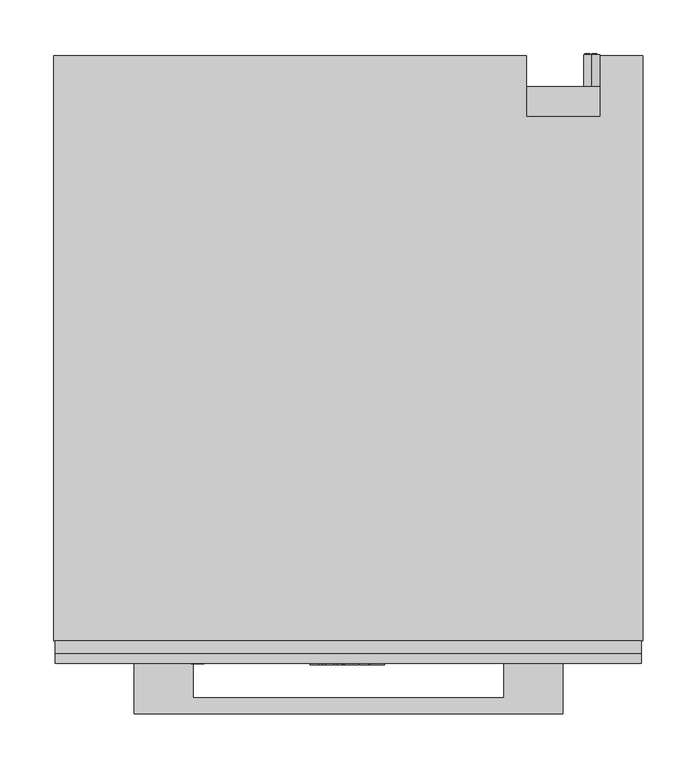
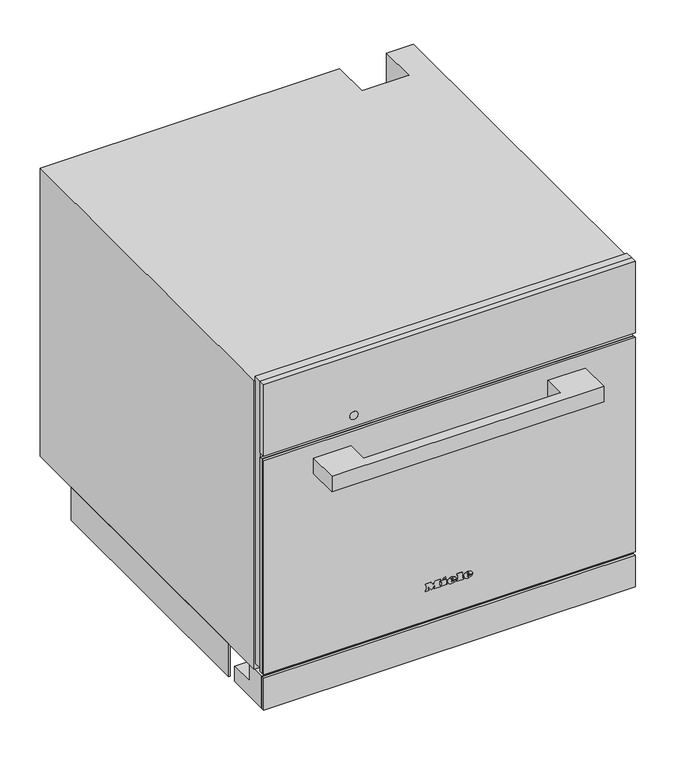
"""IFC4 building model written with IfcOpenShell, lengths in millimetres: proxy geometry, 12082210_CH_DGC7640-55_GRGR : 23764031_CH_12082210_DGC7640-55_GRGR."""

from ifc_helpers import new_model, si_unit, point, frame, frame_2d, origin, origin_with_axes, place, context, project, spatial, polyline, circle_curve, ellipse_curve, trimmed, segment, composite_curve, outline, extrude, faceted_brep, source, transform, mapped, element, save
from ifc_brep_helpers import plane_surface, cylinder_surface, revolved_surface, extruded_surface, advanced_brep


def specialty_equipment_7937b18a(model_context):
    return source(origin(), model_context, "Body", "SolidModel", [
        extrude(outline(polyline([(-200.0, -68.0), (-200.0, -21.0), (-145.0, -21.0), (-145.0, -53.0), (145.0, -53.0), (145.0, -21.0), (200.0, -21.0), (200.0, -68.0), (-200.0, -68.0)])), frame((0.0, 0.0, 342.0), z_axis=(0.0, 0.0, 1.0), x_axis=(1.0, 0.0, 0.0)), (0.0, 0.0, 1.0), 24.0),
        extrude(outline(polyline([(273.5, -17.0), (-273.5, -17.0), (-273.5, -12.0), (273.5, -12.0), (273.5, -17.0)])), frame((0.0, 0.0, 55.0), z_axis=(0.0, 0.0, 1.0), x_axis=(1.0, 0.0, 0.0)), (0.0, 0.0, 1.0), 333.0),
        extrude(outline(polyline([(-273.5, -17.0), (273.5, -17.0), (273.5, -21.0), (-273.5, -21.0), (-273.5, -17.0)])), frame((0.0, 0.0, 55.0), z_axis=(0.0, 0.0, 1.0), x_axis=(1.0, 0.0, 0.0)), (0.0, 0.0, 1.0), 333.0),
        extrude(outline(polyline([(273.5, -21.0), (-273.5, -21.0), (-273.5, -12.0), (273.5, -12.0), (273.5, -21.0)])), frame((0.0, 0.0, 395.0), z_axis=(0.0, 0.0, 1.0), x_axis=(1.0, 0.0, 0.0)), (0.0, 0.0, 1.0), 111.0),
        extrude(outline(composite_curve([segment(trimmed(circle_curve(frame_2d((412.0, -140.5745637)), 6.0), [point((412.0, -146.5745637))], [point((412.0, -134.5745637))], False, "CARTESIAN"), True, "CONTINUOUS"), segment(trimmed(circle_curve(frame_2d((412.0, -140.5745637)), 6.0), [point((412.0, -134.5745637))], [point((412.0, -146.5745637))], False, "CARTESIAN"), True, "CONTINUOUS")], self_intersect=False)), frame((0.0, -21.5, 0.0), z_axis=(0.0, 1.0, 0.0), x_axis=(0.0, 0.0, 1.0)), (0.0, 0.0, 1.0), 1.0),
        extrude(outline(polyline([(49.5, 273.0), (0.5, 273.0), (0.5, 275.0), (51.5, 275.0), (51.5, 203.0), (49.5, 203.0), (49.5, 273.0)])), frame((0.0, 65.0, 0.0), z_axis=(0.0, 1.0, 0.0), x_axis=(0.0, 0.0, 1.0)), (0.0, 0.0, 1.0), 401.0),
        extrude(outline(polyline([(51.5, -275.0), (0.5, -275.0), (0.5, -273.0), (49.5, -273.0), (49.5, -203.0), (51.5, -203.0), (51.5, -275.0)])), frame((0.0, 65.0, 0.0), z_axis=(0.0, 1.0, 0.0), x_axis=(0.0, 0.0, 1.0)), (0.0, 0.0, 1.0), 401.0),
        extrude(outline(polyline([(-16.0, 0.0), (-16.0, 49.5), (15.0, 49.5), (15.0, 23.5), (53.0, 23.5), (53.0, 0.0), (-16.0, 0.0)])), frame((-273.5, 0.0, 0.0), z_axis=(1.0, 0.0, 0.0), x_axis=(0.0, 1.0, 0.0)), (0.0, 0.0, 1.0), 547.0),
        extrude(outline(polyline([(-273.5, -17.0), (273.5, -17.0), (273.5, -21.0), (-273.5, -21.0), (-273.5, -17.0)])), origin_with_axes(), (0.0, 0.0, 1.0), 49.5),
        extrude(outline(polyline([(506.0, 273.5), (506.0, -273.5), (60.0, -273.5), (60.0, 273.5), (506.0, 273.5)]), holes=[polyline([(395.0, -272.5), (395.0, 272.5), (78.0, 272.5), (78.0, -272.5), (395.0, -272.5)])]), frame((0.0, -12.0, 0.0), z_axis=(0.0, 1.0, 0.0), x_axis=(0.0, 0.0, 1.0)), (0.0, 0.0, 1.0), 12.0),
        extrude(outline(polyline([(304.0, 232.0), (304.0, 227.0), (303.0, 227.0), (303.0, 231.0), (299.5, 231.0), (299.5, 228.0), (298.5, 228.0), (298.5, 231.0), (295.0, 231.0), (295.0, 227.0), (294.0, 227.0), (294.0, 232.0), (304.0, 232.0)])), frame((0.0, 547.0, 0.0), z_axis=(0.0, 1.0, 0.0), x_axis=(0.0, 0.0, 1.0)), (0.0, 0.0, 1.0), 1.0),
        extrude(outline(polyline([(294.0, 225.5), (304.0, 225.5), (304.0, 224.5), (295.0, 224.5), (295.0, 220.5), (294.0, 220.5), (294.0, 225.5)])), frame((0.0, 547.0, 0.0), z_axis=(0.0, 1.0, 0.0), x_axis=(0.0, 0.0, 1.0)), (0.0, 0.0, 1.0), 1.0),
        extrude(outline(composite_curve([segment(trimmed(circle_curve(frame_2d((299.0, 227.0)), 7.5), [point((291.5, 227.0))], [point((306.5, 227.0))], False, "CARTESIAN"), True, "CONTINUOUS"), segment(trimmed(circle_curve(frame_2d((299.0, 227.0)), 7.5), [point((306.5, 227.0))], [point((291.5, 227.0))], False, "CARTESIAN"), True, "CONTINUOUS")], self_intersect=False)), frame((0.0, 517.0, 0.0), z_axis=(0.0, 1.0, 0.0), x_axis=(0.0, 0.0, 1.0)), (0.0, 0.0, 1.0), 30.0),
        faceted_brep([(-275.0, 546.0, 51.5), (-275.0, 546.0, 499.5), (166.0, 546.0, 499.5), (166.0, 546.0, 51.5), (235.0, 546.0, 499.5), (275.0, 546.0, 499.5), (275.0, 546.0, 389.5), (235.0, 546.0, 389.5), (275.0, 0.0, 499.5), (-275.0, 0.0, 499.5), (-275.0, 0.0, 51.5), (275.0, 0.0, 51.5), (-272.5, 0.0, 395.0), (272.5, 0.0, 395.0), (272.5, 0.0, 78.0), (-272.5, 0.0, 78.0), (235.0, 489.0, 499.5), (166.0, 489.0, 499.5), (166.0, 517.0, 51.5), (275.0, 517.0, 51.5), (275.0, 517.0, 389.5), (272.5, 18.0, 395.0), (-272.5, 18.0, 395.0), (-272.5, 18.0, 78.0), (272.5, 18.0, 78.0), (231.0, 18.0, 358.0), (231.0, 18.0, 116.0), (-231.0, 18.0, 116.0), (-231.0, 18.0, 358.0), (231.0, 411.0, 358.0), (-231.0, 411.0, 358.0), (-231.0, 411.0, 116.0), (231.0, 411.0, 116.0), (235.0, 489.0, 388.5), (166.0, 489.0, 388.5), (166.0, 517.0, 388.5), (235.0, 517.0, 388.5), (235.0, 517.0, 389.5)], [[[0, 1, 2, 3]], [[4, 5, 6, 7]], [[8, 9, 10, 11], [12, 13, 14, 15]], [[9, 8, 5, 4, 16, 17, 2, 1]], [[1, 0, 10, 9]], [[11, 10, 0, 3, 18, 19]], [[8, 11, 19, 20, 6, 5]], [[21, 22, 23, 24], [25, 26, 27, 28]], [[22, 21, 13, 12]], [[23, 22, 12, 15]], [[24, 23, 15, 14]], [[21, 24, 14, 13]], [[29, 30, 31, 32]], [[29, 32, 26, 25]], [[32, 31, 27, 26]], [[31, 30, 28, 27]], [[30, 29, 25, 28]], [[16, 33, 34, 17]], [[17, 34, 35, 18, 3, 2]], [[34, 33, 36, 35]], [[33, 16, 4, 7, 37, 36]], [[37, 20, 19, 18, 35, 36]], [[20, 37, 7, 6]]]),
        advanced_brep(
        [(26.2998, -22.0, 104.2018), (26.2998, -22.0, 105.3532), (33.9264, -22.0, 105.3532), (20.6568, -22.0, 105.3532), (23.7918, -22.0, 101.5), (33.7326, -22.0, 104.2018), (30.2898, -22.0, 104.2018), (27.5766, -22.0, 102.925), (26.2998, -22.0, 106.8124), (26.2998, -22.0, 108.055), (28.2492, -22.0, 108.055), (28.2492, -22.0, 106.8124), (26.2998, -21.0, 104.2018), (27.5766, -21.0, 102.925), (30.2898, -21.0, 104.2018), (33.7326, -21.0, 104.2018), (23.7918, -21.0, 101.5), (20.6568, -21.0, 105.3532), (33.9264, -21.0, 105.3532), (26.2998, -21.0, 105.3532), (26.2998, -21.0, 106.8124), (28.2492, -21.0, 106.8124), (28.2492, -21.0, 108.055), (26.2998, -21.0, 108.055)],
        [
            (0, 1),
            (1, 2),
            (2, 3, ellipse_curve(frame((27.2916, -22.0, 105.3532), z_axis=(0.0, -1.0, 0.0), x_axis=(-1.0, 0.0, 0.0)), 6.6348, 5.4834)),
            (3, 4, circle_curve(frame((25.0686622, -22.0, 105.7408), z_axis=(0.0, -1.0, 0.0), x_axis=(0.0, 0.0, -1.0)), 4.4288556)),
            (4, 5, circle_curve(frame((27.1587808, -22.0, 108.7504), z_axis=(0.0, -1.0, 0.0), x_axis=(0.0, 0.0, -1.0)), 7.9940516)),
            (5, 6),
            (6, 7, circle_curve(frame((28.1338588, -22.0, 105.262), z_axis=(0.0, 1.0, 0.0), x_axis=(0.0, 0.0, -1.0)), 2.4025208)),
            (7, 0, circle_curve(frame((27.5766, -22.0, 104.2018), z_axis=(0.0, 1.0, 0.0), x_axis=(0.0, 0.0, -1.0)), 1.2768)),
            (8, 9),
            (9, 10, circle_curve(frame((27.2745, -22.0, 108.055), z_axis=(0.0, 1.0, 0.0), x_axis=(0.0, 0.0, -1.0)), 0.9747)),
            (10, 11),
            (11, 8),
            (12, 13, circle_curve(frame((27.5766, -21.0, 104.2018), z_axis=(0.0, -1.0, 0.0), x_axis=(0.0, 0.0, -1.0)), 1.2768)),
            (13, 14, circle_curve(frame((28.1338588, -21.0, 105.262), z_axis=(0.0, -1.0, 0.0), x_axis=(0.0, 0.0, -1.0)), 2.4025208)),
            (14, 15),
            (15, 16, circle_curve(frame((27.1587808, -21.0, 108.7504), z_axis=(0.0, 1.0, 0.0), x_axis=(0.0, 0.0, -1.0)), 7.9940516)),
            (16, 17, circle_curve(frame((25.0686622, -21.0, 105.7408), z_axis=(0.0, 1.0, 0.0), x_axis=(0.0, 0.0, -1.0)), 4.4288556)),
            (17, 18, ellipse_curve(frame((27.2916, -21.0, 105.3532), z_axis=(0.0, 1.0, 0.0), x_axis=(-1.0, 0.0, 0.0)), 6.6348, 5.4834)),
            (18, 19),
            (19, 12),
            (20, 21),
            (21, 22),
            (22, 23, circle_curve(frame((27.2745, -21.0, 108.055), z_axis=(0.0, -1.0, 0.0), x_axis=(0.0, 0.0, -1.0)), 0.9747)),
            (23, 20),
            (0, 12),
            (19, 1),
            (18, 2),
            (5, 15),
            (14, 6),
            (17, 3),
            (13, 7),
            (16, 4),
            (8, 20),
            (23, 9),
            (22, 10),
            (21, 11),
        ],
        [
            plane_surface(frame((26.2998, -22.0, 105.3532), z_axis=(0.0, -1.0, 0.0), x_axis=(0.0, 0.0, 1.0))),
            plane_surface(frame((26.2998, -21.0, 105.3532), z_axis=(0.0, 1.0, 0.0), x_axis=(0.0, 0.0, -1.0))),
            plane_surface(frame((26.2998, -22.0, 104.2018), z_axis=(1.0, 0.0, 0.0), x_axis=(0.0, 1.0, 0.0))),
            plane_surface(frame((26.2998, -22.0, 105.3532), z_axis=(0.0, 0.0, -1.0), x_axis=(0.0, 1.0, 0.0))),
            plane_surface(frame((33.7326, -22.0, 104.2018), z_axis=(0.0, 0.0, 1.0), x_axis=(0.0, 1.0, 0.0))),
            extruded_surface(trimmed(ellipse_curve(frame((27.2916, -20.0, 105.3532), z_axis=(0.0, -1.0, 0.0), x_axis=(-1.0, 0.0, 0.0)), 6.6348, 5.4834), [point((33.9264, -20.0, 105.3532))], [point((20.6568, -20.0, 105.3532))], True, "CARTESIAN"), (0.0, -1.0, 0.0), 1.0),
            revolved_surface(polyline([(28.1338588, -21.0, 102.8594792), (28.1338588, -22.0, 102.8594792)]), (28.1338588, -21.0, 105.262), (0.0, 1.0, 0.0)),
            revolved_surface(polyline([(27.5766, -21.0, 102.92500000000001), (27.5766, -22.0, 102.92500000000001)]), (27.5766, -21.0, 104.2018), (0.0, 1.0, 0.0)),
            cylinder_surface(frame((25.0686622, -21.0, 105.7408), z_axis=(0.0, -1.0, 0.0), x_axis=(0.0, 0.0, -1.0)), 4.4288556),
            cylinder_surface(frame((27.1587808, -21.0, 108.7504), z_axis=(0.0, -1.0, 0.0), x_axis=(0.0, 0.0, -1.0)), 7.9940516),
            plane_surface(frame((26.2998, -22.0, 106.8124), z_axis=(1.0, 0.0, 0.0), x_axis=(0.0, 1.0, 0.0))),
            revolved_surface(polyline([(27.2745, -21.0, 107.08030000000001), (27.2745, -22.0, 107.08030000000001)]), (27.2745, -21.0, 108.055), (0.0, 1.0, 0.0)),
            plane_surface(frame((28.2492, -22.0, 108.055), z_axis=(-1.0, 0.0, 0.0), x_axis=(0.0, 1.0, 0.0))),
            plane_surface(frame((28.2492, -22.0, 106.8124), z_axis=(0.0, 0.0, 1.0), x_axis=(0.0, 1.0, 0.0))),
        ],
        [
            (0, [[1, 2, 3, 4, 5, 6, 7, 8], [9, 10, 11, 12]]),
            (1, [[13, 14, 15, 16, 17, 18, 19, 20], [21, 22, 23, 24]]),
            (2, [[-1, 25, -20, 26]]),
            (3, [[-2, -26, -19, 27]]),
            (4, [[-6, 28, -15, 29]]),
            (5, [[-3, -27, -18, 30]]),
            (6, [[-7, -29, -14, 31]]),
            (7, [[-8, -31, -13, -25]]),
            (8, [[-4, -30, -17, 32]]),
            (9, [[-5, -32, -16, -28]]),
            (10, [[-9, 33, -24, 34]]),
            (11, [[-10, -34, -23, 35]]),
            (12, [[-11, -35, -22, 36]]),
            (13, [[-12, -36, -21, -33]]),
        ],
    ),
        advanced_brep(
        [(2.508, -22.0, 104.2018), (2.508, -22.0, 105.3532), (10.1346, -22.0, 105.3532), (-3.135, -22.0, 105.3532), (0.0, -22.0, 101.5), (9.9408, -22.0, 104.2018), (6.498, -22.0, 104.2018), (3.7848, -22.0, 102.925), (2.508, -22.0, 106.8124), (2.508, -22.0, 108.055), (4.4574, -22.0, 108.055), (4.4574, -22.0, 106.8124), (2.508, -21.0, 104.2018), (3.7848, -21.0, 102.925), (6.498, -21.0, 104.2018), (9.9408, -21.0, 104.2018), (0.0, -21.0, 101.5), (-3.135, -21.0, 105.3532), (10.1346, -21.0, 105.3532), (2.508, -21.0, 105.3532), (2.508, -21.0, 106.8124), (4.4574, -21.0, 106.8124), (4.4574, -21.0, 108.055), (2.508, -21.0, 108.055)],
        [
            (0, 1),
            (1, 2),
            (2, 3, ellipse_curve(frame((3.4998, -22.0, 105.3532), z_axis=(0.0, -1.0, 0.0), x_axis=(-1.0, 0.0, 0.0)), 6.6348, 5.4834)),
            (3, 4, circle_curve(frame((1.2768622, -22.0, 105.7408), z_axis=(0.0, -1.0, 0.0), x_axis=(0.0, 0.0, -1.0)), 4.4288556)),
            (4, 5, circle_curve(frame((3.3669808, -22.0, 108.7504), z_axis=(0.0, -1.0, 0.0), x_axis=(0.0, 0.0, -1.0)), 7.9940516)),
            (5, 6),
            (6, 7, circle_curve(frame((4.3420588, -22.0, 105.262), z_axis=(0.0, 1.0, 0.0), x_axis=(0.0, 0.0, -1.0)), 2.4025208)),
            (7, 0, circle_curve(frame((3.7848, -22.0, 104.2018), z_axis=(0.0, 1.0, 0.0), x_axis=(0.0, 0.0, -1.0)), 1.2768)),
            (8, 9),
            (9, 10, circle_curve(frame((3.4827, -22.0, 108.055), z_axis=(0.0, 1.0, 0.0), x_axis=(0.0, 0.0, -1.0)), 0.9747)),
            (10, 11),
            (11, 8),
            (12, 13, circle_curve(frame((3.7848, -21.0, 104.2018), z_axis=(0.0, -1.0, 0.0), x_axis=(0.0, 0.0, -1.0)), 1.2768)),
            (13, 14, circle_curve(frame((4.3420588, -21.0, 105.262), z_axis=(0.0, -1.0, 0.0), x_axis=(0.0, 0.0, -1.0)), 2.4025208)),
            (14, 15),
            (15, 16, circle_curve(frame((3.3669808, -21.0, 108.7504), z_axis=(0.0, 1.0, 0.0), x_axis=(0.0, 0.0, -1.0)), 7.9940516)),
            (16, 17, circle_curve(frame((1.2768622, -21.0, 105.7408), z_axis=(0.0, 1.0, 0.0), x_axis=(0.0, 0.0, -1.0)), 4.4288556)),
            (17, 18, ellipse_curve(frame((3.4998, -21.0, 105.3532), z_axis=(0.0, 1.0, 0.0), x_axis=(-1.0, 0.0, 0.0)), 6.6348, 5.4834)),
            (18, 19),
            (19, 12),
            (20, 21),
            (21, 22),
            (22, 23, circle_curve(frame((3.4827, -21.0, 108.055), z_axis=(0.0, -1.0, 0.0), x_axis=(0.0, 0.0, -1.0)), 0.9747)),
            (23, 20),
            (0, 12),
            (19, 1),
            (18, 2),
            (5, 15),
            (14, 6),
            (17, 3),
            (13, 7),
            (16, 4),
            (8, 20),
            (23, 9),
            (22, 10),
            (21, 11),
        ],
        [
            plane_surface(frame((2.508, -22.0, 105.3532), z_axis=(0.0, -1.0, 0.0), x_axis=(0.0, 0.0, 1.0))),
            plane_surface(frame((2.508, -21.0, 105.3532), z_axis=(0.0, 1.0, 0.0), x_axis=(0.0, 0.0, -1.0))),
            plane_surface(frame((2.508, -22.0, 104.2018), z_axis=(1.0, 0.0, 0.0), x_axis=(0.0, 1.0, 0.0))),
            plane_surface(frame((2.508, -22.0, 105.3532), z_axis=(0.0, 0.0, -1.0), x_axis=(0.0, 1.0, 0.0))),
            plane_surface(frame((9.9408, -22.0, 104.2018), z_axis=(0.0, 0.0, 1.0), x_axis=(0.0, 1.0, 0.0))),
            extruded_surface(trimmed(ellipse_curve(frame((3.4998, -20.0, 105.3532), z_axis=(0.0, -1.0, 0.0), x_axis=(-1.0, 0.0, 0.0)), 6.6348, 5.4834), [point((10.1346, -20.0, 105.3532))], [point((-3.135, -20.0, 105.3532))], True, "CARTESIAN"), (0.0, -1.0, 0.0), 1.0),
            revolved_surface(polyline([(4.3420588, -21.0, 102.8594792), (4.3420588, -22.0, 102.8594792)]), (4.3420588, -21.0, 105.262), (0.0, 1.0, 0.0)),
            revolved_surface(polyline([(3.7848, -21.0, 102.92500000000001), (3.7848, -22.0, 102.92500000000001)]), (3.7848, -21.0, 104.2018), (0.0, 1.0, 0.0)),
            cylinder_surface(frame((1.2768622, -21.0, 105.7408), z_axis=(0.0, -1.0, 0.0), x_axis=(0.0, 0.0, -1.0)), 4.4288556),
            cylinder_surface(frame((3.3669808, -21.0, 108.7504), z_axis=(0.0, -1.0, 0.0), x_axis=(0.0, 0.0, -1.0)), 7.9940516),
            plane_surface(frame((2.508, -22.0, 106.8124), z_axis=(1.0, 0.0, 0.0), x_axis=(0.0, 1.0, 0.0))),
            revolved_surface(polyline([(3.4827, -21.0, 107.08030000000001), (3.4827, -22.0, 107.08030000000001)]), (3.4827, -21.0, 108.055), (0.0, 1.0, 0.0)),
            plane_surface(frame((4.4574, -22.0, 108.055), z_axis=(-1.0, 0.0, 0.0), x_axis=(0.0, 1.0, 0.0))),
            plane_surface(frame((4.4574, -22.0, 106.8124), z_axis=(0.0, 0.0, 1.0), x_axis=(0.0, 1.0, 0.0))),
        ],
        [
            (0, [[1, 2, 3, 4, 5, 6, 7, 8], [9, 10, 11, 12]]),
            (1, [[13, 14, 15, 16, 17, 18, 19, 20], [21, 22, 23, 24]]),
            (2, [[-1, 25, -20, 26]]),
            (3, [[-2, -26, -19, 27]]),
            (4, [[-6, 28, -15, 29]]),
            (5, [[-3, -27, -18, 30]]),
            (6, [[-7, -29, -14, 31]]),
            (7, [[-8, -31, -13, -25]]),
            (8, [[-4, -30, -17, 32]]),
            (9, [[-5, -32, -16, -28]]),
            (10, [[-9, 33, -24, 34]]),
            (11, [[-10, -34, -23, 35]]),
            (12, [[-11, -35, -22, 36]]),
            (13, [[-12, -36, -21, -33]]),
        ],
    ),
        extrude(outline(polyline([(112.2274, -9.9522), (110.3806, -9.0858), (112.1818, -5.2212), (114.0286, -6.0762), (112.2274, -9.9522)])), frame((0.0, -22.0, 0.0), z_axis=(0.0, 1.0, 0.0), x_axis=(0.0, 0.0, 1.0)), (0.0, 0.0, 1.0), 1.0),
        extrude(outline(polyline([(110.1298, -12.768), (108.0892, -12.768), (108.0892, -11.4114), (103.4152, -11.4114), (103.4152, -12.768), (101.5, -12.768), (101.5, -3.7734), (103.4152, -3.7734), (103.4152, -5.0958), (110.1298, -5.0958), (110.1298, -12.768)])), frame((0.0, -22.0, 0.0), z_axis=(0.0, 1.0, 0.0), x_axis=(0.0, 0.0, 1.0)), (0.0, 0.0, 1.0), 1.0),
        extrude(outline(polyline([(111.0418, 10.773), (111.0418, 12.141), (103.4152, 12.141), (103.4152, 10.773), (101.5, 10.773), (101.5, 20.0184), (103.4152, 20.0184), (103.4152, 18.6162), (112.9, 18.6162), (112.9, 10.773), (111.0418, 10.773)])), frame((0.0, -22.0, 0.0), z_axis=(0.0, 1.0, 0.0), x_axis=(0.0, 0.0, 1.0)), (0.0, 0.0, 1.0), 1.0),
        extrude(outline(polyline([(111.0418, -35.4882), (111.0418, -34.1088), (103.4152, -34.1088), (103.4152, -35.4882), (101.5, -35.4882), (101.5, -30.4722), (103.4152, -30.4722), (103.4152, -31.8402), (108.2429247, -31.8402), (101.5, -26.7444), (108.4402223, -21.6258), (103.4152, -21.6258), (103.4152, -23.028), (101.5, -23.028), (101.5, -13.9308), (103.4152, -13.9308), (103.4152, -15.3786), (111.0418, -15.3786), (111.0418, -13.9308), (112.9, -13.9308), (112.9, -20.8734), (108.625, -24.2022), (112.9, -27.5424), (112.9, -35.4882), (111.0418, -35.4882)])), frame((0.0, -22.0, 0.0), z_axis=(0.0, 1.0, 0.0), x_axis=(0.0, 0.0, 1.0)), (0.0, 0.0, 1.0), 1.0),
    ])


if __name__ == "__main__":
    model = new_model("IFC4")
    model_context = context("Model", 3, world=origin())
    ifc_project = project(units=[si_unit("LENGTHUNIT", "METRE", prefix="MILLI")], contexts=[model_context])
    site = spatial("IfcSite", under=ifc_project)
    building = spatial("IfcBuilding", under=site)
    placement = place(None, origin())
    specialty_equipment_shape = specialty_equipment_7937b18a(model_context)
    element("IfcBuildingElementProxy", 1, Name="12082210_CH_DGC7640-55_GRGR : 23764031_CH_12082210_DGC7640-55_GRGR", ObjectType="12082210_CH_DGC7640-55_GRGR : 23764031_CH_12082210_DGC7640-55_GRGR", at=placement, inside=building, context=model_context, shape_type="MappedRepresentation", body=[
        mapped(specialty_equipment_shape, transform((0.0, 0.0, 0.0), x_axis=(1.0, 0.0, 0.0), y_axis=(0.0, 1.0, 0.0), z_axis=(0.0, 0.0, 1.0))),
    ])
    save(model, "model.ifc")
